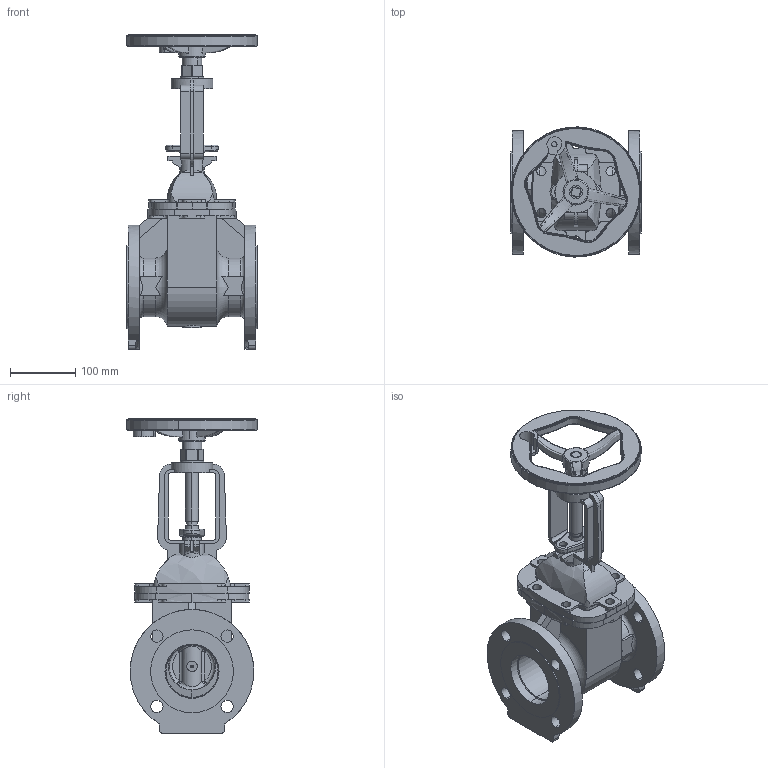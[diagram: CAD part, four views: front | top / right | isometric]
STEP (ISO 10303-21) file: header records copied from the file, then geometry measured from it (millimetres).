
FILE_DESCRIPTION(('Open CASCADE Model'),'2;1');
FILE_NAME('Open CASCADE Shape Model','2022-03-10T09:08:50',('Author'),( 'Open CASCADE'),'Open CASCADE STEP processor 7.3','Open CASCADE 7.3' ,'Unknown');
FILE_SCHEMA(('AUTOMOTIVE_DESIGN { 1 0 10303 214 1 1 1 1 }'));
Length unit declared in the file: millimetre
Products named in the file (8): Open CASCADE STEP translator 7.3 1; Open CASCADE STEP translator 7.3 1.1; Open CASCADE STEP translator 7.3 1.2; Open CASCADE STEP translator 7.3 1.3; Open CASCADE STEP translator 7.3 1.4; Open CASCADE STEP translator 7.3 1.5; Open CASCADE STEP translator 7.3 1.6; Open CASCADE STEP translator 7.3 1.7
Assembly tree (7 placements, depth 2):
  Open CASCADE STEP translator 7.3 1
    Open CASCADE STEP translator 7.3 1.1
    Open CASCADE STEP translator 7.3 1.2
    Open CASCADE STEP translator 7.3 1.3
    Open CASCADE STEP translator 7.3 1.4
    Open CASCADE STEP translator 7.3 1.5
    Open CASCADE STEP translator 7.3 1.6
    Open CASCADE STEP translator 7.3 1.7
Bounding box: 200 x 199.87 x 483.5 mm (x, y, z)
Volume: 2383252.3 mm3; surface area: 608714 mm2
Topology: 7 solids, 7 shells, 715 faces, 1937 edges, 1245 vertices
Faces by surface type: cylinder 276, plane 251, bspline 60, torus 49, cone 45, sphere 18, revolution 16
Entity records: 113063 total; most frequent: CARTESIAN_POINT 76526, DIRECTION 6309, ORIENTED_EDGE 3874, PCURVE 3874, DEFINITIONAL_REPRESENTATION 3874, LINE 3184, VECTOR 3184, EDGE_CURVE 1937
